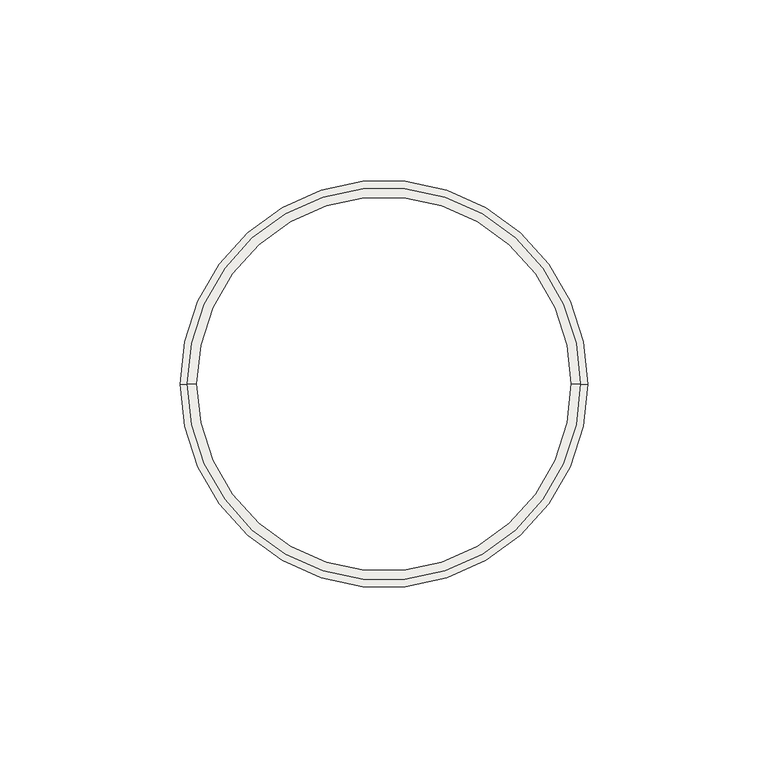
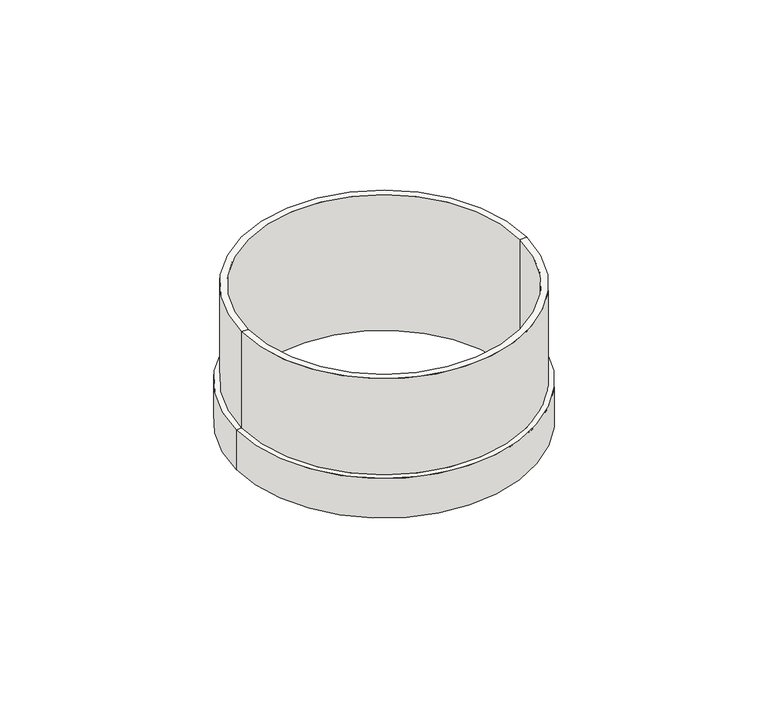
"""IFC4 building model written with IfcOpenShell, lengths in millimetres: covering geometry, NLRS_57_DUF_UN_valve extension_M&G : L=40."""

from ifc_helpers import new_model, si_unit, frame, origin, origin_with_axes, place, context, project, spatial, polyline, circle_curve, source, transform, mapped, element, save
from ifc_brep_helpers import plane_surface, cylinder_surface, revolved_surface, advanced_brep


def covering_845dcc57(model_context):
    return source(origin(), model_context, "Body", "AdvancedBrep", [
        advanced_brep(
        [(-56.5, 0.0, 16.0), (56.5, 0.0, 16.0), (56.5, 0.0, 0.0), (-56.5, 0.0, 0.0), (-54.5, 0.0, 16.0), (54.5, 0.0, 16.0), (-54.5, 0.0, 55.0), (54.5, 0.0, 55.0), (-52.0, 0.0, 55.0), (52.0, 0.0, 55.0), (-52.0, 0.0, 0.0), (52.0, 0.0, 0.0)],
        [
            (0, 1, circle_curve(frame((0.0, 0.0, 16.0), z_axis=(0.0, 0.0, -1.0), x_axis=(1.0, 0.0, 0.0)), 56.5)),
            (1, 2),
            (2, 3, circle_curve(origin_with_axes(), 56.5)),
            (3, 0),
            (1, 0, circle_curve(frame((0.0, 0.0, 16.0), z_axis=(0.0, 0.0, -1.0), x_axis=(1.0, 0.0, 0.0)), 56.5)),
            (3, 2, circle_curve(origin_with_axes(), 56.5)),
            (4, 5, circle_curve(frame((0.0, 0.0, 16.0), z_axis=(0.0, 0.0, -1.0), x_axis=(1.0, 0.0, 0.0)), 54.5)),
            (5, 1),
            (0, 4),
            (5, 4, circle_curve(frame((0.0, 0.0, 16.0), z_axis=(0.0, 0.0, -1.0), x_axis=(1.0, 0.0, 0.0)), 54.5)),
            (6, 7, circle_curve(frame((0.0, 0.0, 55.0), z_axis=(0.0, 0.0, -1.0), x_axis=(1.0, 0.0, 0.0)), 54.5)),
            (7, 5),
            (4, 6),
            (7, 6, circle_curve(frame((0.0, 0.0, 55.0), z_axis=(0.0, 0.0, -1.0), x_axis=(1.0, 0.0, 0.0)), 54.5)),
            (8, 9, circle_curve(frame((0.0, 0.0, 55.0), z_axis=(0.0, 0.0, -1.0), x_axis=(1.0, 0.0, 0.0)), 52.0)),
            (9, 7),
            (6, 8),
            (9, 8, circle_curve(frame((0.0, 0.0, 55.0), z_axis=(0.0, 0.0, -1.0), x_axis=(1.0, 0.0, 0.0)), 52.0)),
            (10, 11, circle_curve(frame((0.0, 0.0, 0.0), z_axis=(0.0, 0.0, -1.0), x_axis=(1.0, 0.0, 0.0)), 52.0)),
            (11, 9),
            (8, 10),
            (11, 10, circle_curve(frame((0.0, 0.0, 0.0), z_axis=(0.0, 0.0, -1.0), x_axis=(1.0, 0.0, 0.0)), 52.0)),
            (2, 11),
            (10, 3),
        ],
        [
            cylinder_surface(frame((0.0, 0.0, 29.25), z_axis=(0.0, 0.0, 1.0), x_axis=(1.0, 0.0, 0.0)), 56.5),
            plane_surface(frame((0.0, 0.0, 16.0), z_axis=(0.0, 0.0, 1.0), x_axis=(1.0, 0.0, 0.0))),
            cylinder_surface(frame((0.0, 0.0, 29.25), z_axis=(0.0, 0.0, 1.0), x_axis=(1.0, 0.0, 0.0)), 54.5),
            plane_surface(frame((0.0, 0.0, 55.0), z_axis=(0.0, 0.0, 1.0), x_axis=(1.0, 0.0, 0.0))),
            revolved_surface(polyline([(52.0, 0.0, 55.0), (52.0, 0.0, 0.0)]), (0.0, 0.0, 29.25), (0.0, 0.0, 1.0)),
            plane_surface(frame((0.0, 0.0, 0.0), z_axis=(0.0, 0.0, -1.0), x_axis=(1.0, 0.0, 0.0))),
        ],
        [
            (0, [[1, 2, 3, 4]]),
            (0, [[5, -4, 6, -2]]),
            (1, [[7, 8, -1, 9]]),
            (1, [[10, -9, -5, -8]]),
            (2, [[11, 12, -7, 13]]),
            (2, [[14, -13, -10, -12]]),
            (3, [[15, 16, -11, 17]]),
            (3, [[18, -17, -14, -16]]),
            (4, [[19, 20, -15, 21]]),
            (4, [[22, -21, -18, -20]]),
            (5, [[-3, 23, -19, 24]]),
            (5, [[-6, -24, -22, -23]]),
        ],
    ),
    ])


if __name__ == "__main__":
    model = new_model("IFC4")
    model_context = context("Model", 3, world=origin())
    ifc_project = project(units=[si_unit("LENGTHUNIT", "METRE", prefix="MILLI")], contexts=[model_context])
    site = spatial("IfcSite", under=ifc_project)
    building = spatial("IfcBuilding", under=site)
    placement = place(None, origin())
    covering_shape = covering_845dcc57(model_context)
    element("IfcCovering", 1, ObjectType="NLRS_57_DUF_UN_valve extension_M&G : L=40", at=placement, inside=building, context=model_context, shape_type="MappedRepresentation", body=[
        mapped(covering_shape, transform((0.0, 0.0, 0.0), x_axis=(1.0, 0.0, 0.0), y_axis=(0.0, 1.0, 0.0), z_axis=(0.0, 0.0, 1.0))),
    ])
    save(model, "model.ifc")
